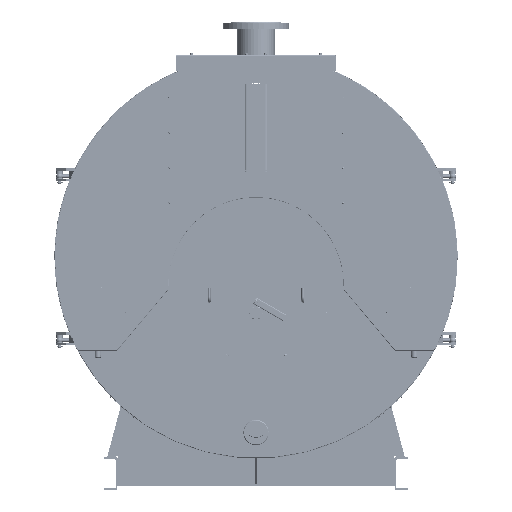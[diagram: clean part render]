
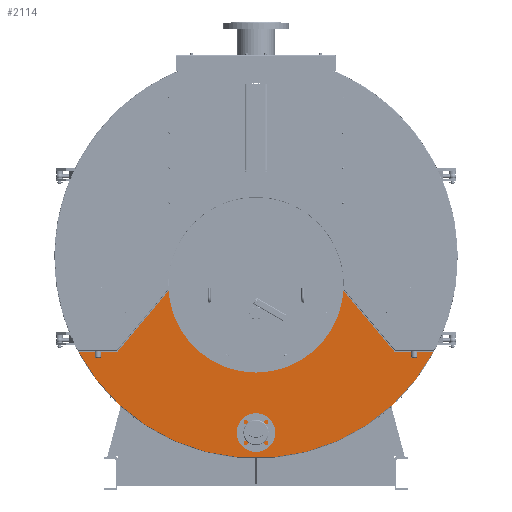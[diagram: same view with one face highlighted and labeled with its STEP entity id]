
A CAD part, left-side view. The second image highlights one B-rep face of the part: STEP entity #2114.
In plain terms, the highlighted planar face has unit normal (-1, 0, 0).
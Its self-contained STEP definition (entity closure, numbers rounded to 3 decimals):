
#2114=ADVANCED_FACE('',(#19922,#19924),#19926,.T.);
#19922=FACE_BOUND('',#19923,.T.);
#19923=EDGE_LOOP('',(#57323,#57324,#57325,#57326,#57327,#57328,#57329,#57330));
#19924=FACE_BOUND('',#19925,.T.);
#19925=EDGE_LOOP('',(#57331));
#19926=PLANE('',#19927);
#19927=AXIS2_PLACEMENT_3D('',#19928,#19929,#19930);
#19928=CARTESIAN_POINT('',(-652.55,0.,300.));
#19929=DIRECTION('',(-1.,0.,0.));
#19930=DIRECTION('',(0.,-1.,0.));
#57323=ORIENTED_EDGE('',*,*,#79248,.T.);
#57324=ORIENTED_EDGE('',*,*,#79249,.T.);
#57325=ORIENTED_EDGE('',*,*,#79155,.T.);
#57326=ORIENTED_EDGE('',*,*,#79250,.T.);
#57327=ORIENTED_EDGE('',*,*,#79147,.F.);
#57328=ORIENTED_EDGE('',*,*,#79246,.F.);
#57329=ORIENTED_EDGE('',*,*,#79251,.F.);
#57330=ORIENTED_EDGE('',*,*,#79252,.F.);
#57331=ORIENTED_EDGE('',*,*,#79253,.F.);
#79147=EDGE_CURVE('',#92888,#92890,#92891,.T.);
#79155=EDGE_CURVE('',#92904,#92902,#92905,.T.);
#79246=EDGE_CURVE('',#93034,#92888,#93035,.T.);
#79248=EDGE_CURVE('',#93037,#93038,#93039,.F.);
#79249=EDGE_CURVE('',#93038,#92904,#93040,.T.);
#79250=EDGE_CURVE('',#92902,#92890,#93041,.F.);
#79251=EDGE_CURVE('',#93042,#93034,#93043,.F.);
#79252=EDGE_CURVE('',#93037,#93042,#93044,.T.);
#79253=EDGE_CURVE('',#93045,#93045,#93046,.T.);
#92888=VERTEX_POINT('',#129597);
#92890=VERTEX_POINT('',#129601);
#92891=LINE('',#129602,#129603);
#92902=VERTEX_POINT('',#129661);
#92904=VERTEX_POINT('',#129698);
#92905=LINE('',#129699,#129700);
#93034=VERTEX_POINT('',#130098);
#93035=LINE('',#130099,#130100);
#93037=VERTEX_POINT('',#130105);
#93038=VERTEX_POINT('',#130106);
#93039=LINE('',#130107,#130108);
#93040=LINE('',#130110,#130111);
#93041=CIRCLE('',#130113,859.);
#93042=VERTEX_POINT('',#130117);
#93043=LINE('',#130118,#130119);
#93044=CIRCLE('',#130121,350.);
#93045=VERTEX_POINT('',#130125);
#93046=CIRCLE('',#130126,35.);
#129597=CARTESIAN_POINT('',(-652.55,-591.265,-105.));
#129601=CARTESIAN_POINT('',(-652.55,-757.533,-105.));
#129602=CARTESIAN_POINT('',(-652.55,-591.265,-105.));
#129603=VECTOR('',#129604,1.);
#129604=DIRECTION('',(0.,-1.,0.));
#129661=CARTESIAN_POINT('',(-652.55,757.533,-105.));
#129698=CARTESIAN_POINT('',(-652.55,591.265,-105.));
#129699=CARTESIAN_POINT('',(-652.55,591.265,-105.));
#129700=VECTOR('',#129701,1.);
#129701=DIRECTION('',(0.,1.,0.));
#130098=CARTESIAN_POINT('',(-652.55,-354.983,176.589));
#130099=CARTESIAN_POINT('',(-652.55,-354.983,176.589));
#130100=VECTOR('',#130101,1.);
#130101=DIRECTION('',(0.,-0.643,-0.766));
#130105=CARTESIAN_POINT('',(-652.55,349.983,176.589));
#130106=CARTESIAN_POINT('',(-652.55,354.983,176.589));
#130107=CARTESIAN_POINT('',(-652.55,354.983,176.589));
#130108=VECTOR('',#130109,1.);
#130109=DIRECTION('',(0.,-1.,0.));
#130110=CARTESIAN_POINT('',(-652.55,354.983,176.589));
#130111=VECTOR('',#130112,1.);
#130112=DIRECTION('',(0.,0.643,-0.766));
#130113=AXIS2_PLACEMENT_3D('',#130114,#130115,#130116);
#130114=CARTESIAN_POINT('',(-652.55,0.,300.));
#130115=DIRECTION('',(1.,0.,0.));
#130116=DIRECTION('',(0.,-0.882,-0.471));
#130117=CARTESIAN_POINT('',(-652.55,-349.983,176.589));
#130118=CARTESIAN_POINT('',(-652.55,-354.983,176.589));
#130119=VECTOR('',#130120,1.);
#130120=DIRECTION('',(0.,1.,0.));
#130121=AXIS2_PLACEMENT_3D('',#130122,#130123,#130124);
#130122=CARTESIAN_POINT('',(-652.55,0.,180.));
#130123=DIRECTION('',(-1.,0.,0.));
#130124=DIRECTION('',(0.,1.,-0.01));
#130125=CARTESIAN_POINT('',(-652.55,0.,-415.));
#130126=AXIS2_PLACEMENT_3D('',#130127,#130128,#130129);
#130127=CARTESIAN_POINT('',(-652.55,0.,-450.));
#130128=DIRECTION('',(-1.,0.,0.));
#130129=DIRECTION('',(0.,-1.,0.));
